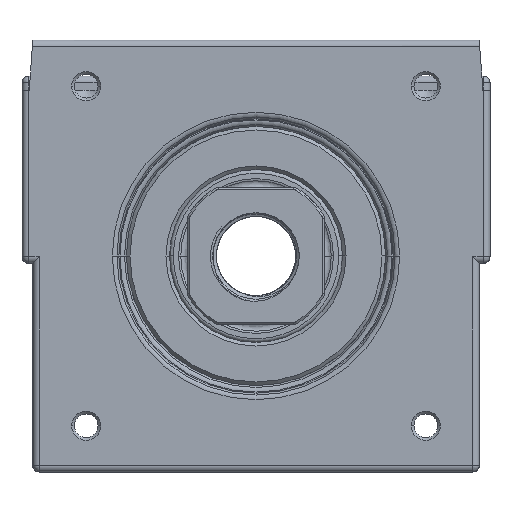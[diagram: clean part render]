
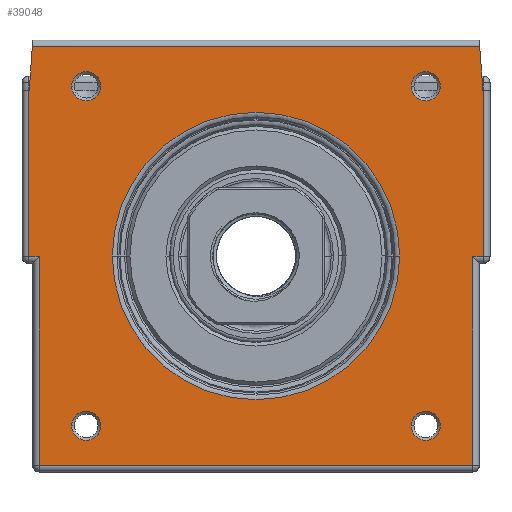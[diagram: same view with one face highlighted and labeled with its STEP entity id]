
A CAD part, front view. The second image highlights one B-rep face of the part: STEP entity #39048.
In plain terms, the highlighted planar face has unit normal (0, -1, 0) as drawn and (0, 0, -1) by its records, which use the part's own axes.
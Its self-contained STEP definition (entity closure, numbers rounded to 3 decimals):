
#33723=CARTESIAN_POINT('',(30.1,0.1,-5.));
#33725=DIRECTION('',(1.,0.,0.));
#33726=VECTOR('',#33725,1.5);
#33727=CARTESIAN_POINT('',(30.1,0.1,-5.));
#33728=LINE('',#33727,#33726);
#33733=DIRECTION('',(0.,-1.,0.));
#33734=VECTOR('',#33733,29.);
#33735=CARTESIAN_POINT('',(30.1,29.1,-5.));
#33736=LINE('',#33735,#33734);
#33916=DIRECTION('',(-1.,0.,0.));
#33917=VECTOR('',#33916,0.1);
#33918=CARTESIAN_POINT('',(-31.5,-23.,-5.));
#33919=LINE('',#33918,#33917);
#34809=DIRECTION('',(1.,0.,0.));
#34810=VECTOR('',#34809,1.5);
#34811=CARTESIAN_POINT('',(-31.6,0.1,-5.));
#34812=LINE('',#34811,#34810);
#34825=CARTESIAN_POINT('',(-30.1,0.1,-5.));
#34827=DIRECTION('',(0.,1.,0.));
#34828=VECTOR('',#34827,29.);
#34829=CARTESIAN_POINT('',(-30.1,0.1,-5.));
#34830=LINE('',#34829,#34828);
#34894=DIRECTION('',(1.,0.,0.));
#34895=VECTOR('',#34894,60.2);
#34896=CARTESIAN_POINT('',(-30.1,29.1,-5.));
#34897=LINE('',#34896,#34895);
#34913=DIRECTION('',(0.071,-0.997,0.));
#34914=VECTOR('',#34913,6.115);
#34915=CARTESIAN_POINT('',(-31.5,-23.,-5.));
#34916=LINE('',#34915,#34914);
#34917=DIRECTION('',(0.074,0.997,0.));
#34918=VECTOR('',#34917,6.117);
#34919=CARTESIAN_POINT('',(31.067,-29.1,-5.));
#34920=LINE('',#34919,#34918);
#34921=DIRECTION('',(1.,0.,0.));
#34922=VECTOR('',#34921,0.08);
#34923=CARTESIAN_POINT('',(31.52,-23.,-5.));
#34924=LINE('',#34923,#34922);
#34925=CARTESIAN_POINT('',(0.,0.,-5.));
#34926=DIRECTION('',(0.,0.,-1.));
#34927=DIRECTION('',(-1.,0.,0.));
#34928=AXIS2_PLACEMENT_3D('',#34925,#34926,#34927);
#34930=CARTESIAN_POINT('',(0.,0.,-5.));
#34931=DIRECTION('',(0.,0.,-1.));
#34932=DIRECTION('',(1.,0.,0.));
#34933=AXIS2_PLACEMENT_3D('',#34930,#34931,#34932);
#34935=CARTESIAN_POINT('',(23.582,-23.582,-5.));
#34936=DIRECTION('',(0.,0.,-1.));
#34937=DIRECTION('',(-1.,0.,0.));
#34938=AXIS2_PLACEMENT_3D('',#34935,#34936,#34937);
#34940=CARTESIAN_POINT('',(23.582,-23.582,-5.));
#34941=DIRECTION('',(0.,0.,-1.));
#34942=DIRECTION('',(1.,0.,0.));
#34943=AXIS2_PLACEMENT_3D('',#34940,#34941,#34942);
#34945=CARTESIAN_POINT('',(-23.582,-23.582,-5.));
#34946=DIRECTION('',(0.,0.,-1.));
#34947=DIRECTION('',(-1.,0.,0.));
#34948=AXIS2_PLACEMENT_3D('',#34945,#34946,#34947);
#34950=CARTESIAN_POINT('',(-23.582,-23.582,-5.));
#34951=DIRECTION('',(0.,0.,-1.));
#34952=DIRECTION('',(1.,0.,0.));
#34953=AXIS2_PLACEMENT_3D('',#34950,#34951,#34952);
#34955=CARTESIAN_POINT('',(-23.582,23.582,-5.));
#34956=DIRECTION('',(0.,0.,-1.));
#34957=DIRECTION('',(-1.,0.,0.));
#34958=AXIS2_PLACEMENT_3D('',#34955,#34956,#34957);
#34960=CARTESIAN_POINT('',(-23.582,23.582,-5.));
#34961=DIRECTION('',(0.,0.,-1.));
#34962=DIRECTION('',(1.,0.,0.));
#34963=AXIS2_PLACEMENT_3D('',#34960,#34961,#34962);
#34965=CARTESIAN_POINT('',(23.582,23.582,-5.));
#34966=DIRECTION('',(0.,0.,-1.));
#34967=DIRECTION('',(-1.,0.,0.));
#34968=AXIS2_PLACEMENT_3D('',#34965,#34966,#34967);
#34970=CARTESIAN_POINT('',(23.582,23.582,-5.));
#34971=DIRECTION('',(0.,0.,-1.));
#34972=DIRECTION('',(1.,0.,0.));
#34973=AXIS2_PLACEMENT_3D('',#34970,#34971,#34972);
#35190=DIRECTION('',(-1.,0.,0.));
#35191=VECTOR('',#35190,62.131);
#35192=CARTESIAN_POINT('',(31.067,-29.1,-5.));
#35193=LINE('',#35192,#35191);
#35219=DIRECTION('',(0.,-1.,0.));
#35220=VECTOR('',#35219,23.1);
#35221=CARTESIAN_POINT('',(31.6,0.1,-5.));
#35222=LINE('',#35221,#35220);
#35223=DIRECTION('',(0.,1.,0.));
#35224=VECTOR('',#35223,23.1);
#35225=CARTESIAN_POINT('',(-31.6,-23.,-5.));
#35226=LINE('',#35225,#35224);
#36855=VERTEX_POINT('',#34825);
#36856=CARTESIAN_POINT('',(-31.6,0.1,-5.));
#36857=VERTEX_POINT('',#36856);
#36859=CARTESIAN_POINT('',(-30.1,29.1,-5.));
#36861=VERTEX_POINT('',#36859);
#36872=CARTESIAN_POINT('',(30.1,29.1,-5.));
#36873=VERTEX_POINT('',#36872);
#36874=VERTEX_POINT('',#33723);
#36875=CARTESIAN_POINT('',(31.6,0.1,-5.));
#36876=VERTEX_POINT('',#36875);
#36880=CARTESIAN_POINT('',(31.6,-23.,-5.));
#36882=VERTEX_POINT('',#36880);
#36889=CARTESIAN_POINT('',(31.52,-23.,-5.));
#36890=VERTEX_POINT('',#36889);
#36909=CARTESIAN_POINT('',(-31.5,-23.,-5.));
#36910=VERTEX_POINT('',#36909);
#36911=CARTESIAN_POINT('',(-31.6,-23.,-5.));
#36912=VERTEX_POINT('',#36911);
#36946=CARTESIAN_POINT('',(-31.064,-29.1,-5.));
#36947=VERTEX_POINT('',#36946);
#36951=CARTESIAN_POINT('',(31.067,-29.1,-5.));
#36952=VERTEX_POINT('',#36951);
#36953=CARTESIAN_POINT('',(-19.95,0.,-5.));
#36954=CARTESIAN_POINT('',(19.95,0.,-5.));
#36955=VERTEX_POINT('',#36953);
#36956=VERTEX_POINT('',#36954);
#36957=CARTESIAN_POINT('',(21.557,-23.582,-5.));
#36958=CARTESIAN_POINT('',(25.607,-23.582,-5.));
#36959=VERTEX_POINT('',#36957);
#36960=VERTEX_POINT('',#36958);
#36961=CARTESIAN_POINT('',(-25.607,-23.582,-5.));
#36962=CARTESIAN_POINT('',(-21.557,-23.582,-5.));
#36963=VERTEX_POINT('',#36961);
#36964=VERTEX_POINT('',#36962);
#36965=CARTESIAN_POINT('',(-25.607,23.582,-5.));
#36966=CARTESIAN_POINT('',(-21.557,23.582,-5.));
#36967=VERTEX_POINT('',#36965);
#36968=VERTEX_POINT('',#36966);
#36969=CARTESIAN_POINT('',(21.557,23.582,-5.));
#36970=CARTESIAN_POINT('',(25.607,23.582,-5.));
#36971=VERTEX_POINT('',#36969);
#36972=VERTEX_POINT('',#36970);
#38994=CARTESIAN_POINT('',(-31.,-30.,-5.));
#38995=DIRECTION('',(0.,0.,1.));
#38996=DIRECTION('',(-1.,0.,0.));
#38997=AXIS2_PLACEMENT_3D('',#38994,#38995,#38996);
#38998=PLANE('',#38997);
#39000=ORIENTED_EDGE('',*,*,#38999,.T.);
#39002=ORIENTED_EDGE('',*,*,#39001,.F.);
#39004=ORIENTED_EDGE('',*,*,#39003,.T.);
#39005=ORIENTED_EDGE('',*,*,#37731,.T.);
#39007=ORIENTED_EDGE('',*,*,#39006,.F.);
#39008=ORIENTED_EDGE('',*,*,#37484,.F.);
#39009=ORIENTED_EDGE('',*,*,#37499,.F.);
#39010=ORIENTED_EDGE('',*,*,#38978,.F.);
#39011=ORIENTED_EDGE('',*,*,#38895,.F.);
#39012=ORIENTED_EDGE('',*,*,#38880,.F.);
#39014=ORIENTED_EDGE('',*,*,#39013,.F.);
#39015=ORIENTED_EDGE('',*,*,#37755,.F.);
#39016=EDGE_LOOP('',(#39000,#39002,#39004,#39005,#39007,#39008,#39009,#39010,
#39011,#39012,#39014,#39015));
#39017=FACE_OUTER_BOUND('',#39016,.F.);
#39019=ORIENTED_EDGE('',*,*,#39018,.T.);
#39021=ORIENTED_EDGE('',*,*,#39020,.T.);
#39022=EDGE_LOOP('',(#39019,#39021));
#39023=FACE_BOUND('',#39022,.F.);
#39025=ORIENTED_EDGE('',*,*,#39024,.T.);
#39027=ORIENTED_EDGE('',*,*,#39026,.T.);
#39028=EDGE_LOOP('',(#39025,#39027));
#39029=FACE_BOUND('',#39028,.F.);
#39031=ORIENTED_EDGE('',*,*,#39030,.T.);
#39033=ORIENTED_EDGE('',*,*,#39032,.T.);
#39034=EDGE_LOOP('',(#39031,#39033));
#39035=FACE_BOUND('',#39034,.F.);
#39037=ORIENTED_EDGE('',*,*,#39036,.T.);
#39039=ORIENTED_EDGE('',*,*,#39038,.T.);
#39040=EDGE_LOOP('',(#39037,#39039));
#39041=FACE_BOUND('',#39040,.F.);
#39043=ORIENTED_EDGE('',*,*,#39042,.T.);
#39045=ORIENTED_EDGE('',*,*,#39044,.T.);
#39046=EDGE_LOOP('',(#39043,#39045));
#39047=FACE_BOUND('',#39046,.F.);
#34929=CIRCLE('',#34928,19.95);
#34934=CIRCLE('',#34933,19.95);
#34939=CIRCLE('',#34938,2.025);
#34944=CIRCLE('',#34943,2.025);
#34949=CIRCLE('',#34948,2.025);
#34954=CIRCLE('',#34953,2.025);
#34959=CIRCLE('',#34958,2.025);
#34964=CIRCLE('',#34963,2.025);
#34969=CIRCLE('',#34968,2.025);
#34974=CIRCLE('',#34973,2.025);
#37484=EDGE_CURVE('',#36874,#36876,#33728,.T.);
#37499=EDGE_CURVE('',#36873,#36874,#33736,.T.);
#37731=EDGE_CURVE('',#36890,#36882,#34924,.T.);
#37755=EDGE_CURVE('',#36910,#36912,#33919,.T.);
#38880=EDGE_CURVE('',#36857,#36855,#34812,.T.);
#38895=EDGE_CURVE('',#36855,#36861,#34830,.T.);
#38978=EDGE_CURVE('',#36861,#36873,#34897,.T.);
#38999=EDGE_CURVE('',#36910,#36947,#34916,.T.);
#39001=EDGE_CURVE('',#36952,#36947,#35193,.T.);
#39003=EDGE_CURVE('',#36952,#36890,#34920,.T.);
#39006=EDGE_CURVE('',#36876,#36882,#35222,.T.);
#39013=EDGE_CURVE('',#36912,#36857,#35226,.T.);
#39018=EDGE_CURVE('',#36955,#36956,#34929,.T.);
#39020=EDGE_CURVE('',#36956,#36955,#34934,.T.);
#39024=EDGE_CURVE('',#36959,#36960,#34939,.T.);
#39026=EDGE_CURVE('',#36960,#36959,#34944,.T.);
#39030=EDGE_CURVE('',#36963,#36964,#34949,.T.);
#39032=EDGE_CURVE('',#36964,#36963,#34954,.T.);
#39036=EDGE_CURVE('',#36967,#36968,#34959,.T.);
#39038=EDGE_CURVE('',#36968,#36967,#34964,.T.);
#39042=EDGE_CURVE('',#36971,#36972,#34969,.T.);
#39044=EDGE_CURVE('',#36972,#36971,#34974,.T.);
#39048=ADVANCED_FACE('',(#39017,#39023,#39029,#39035,#39041,#39047),#38998,.F.);
